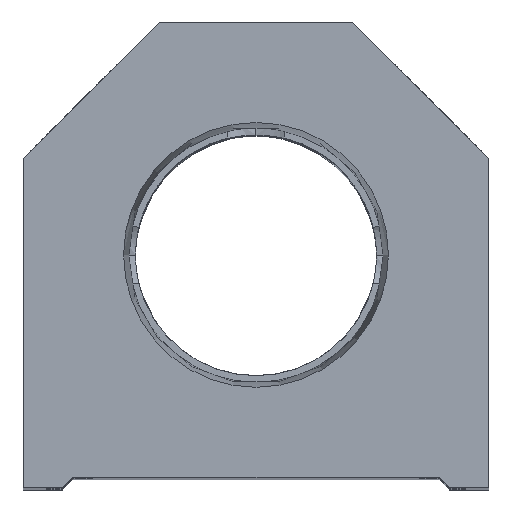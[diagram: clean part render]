
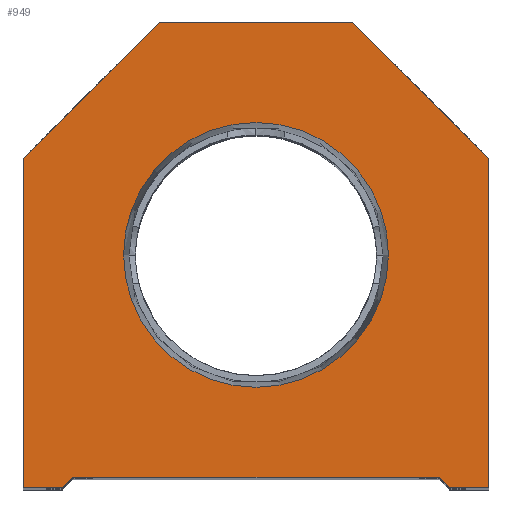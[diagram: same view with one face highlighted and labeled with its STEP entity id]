
A CAD part, top view. The second image highlights one B-rep face of the part: STEP entity #949.
In plain terms, the highlighted planar face has unit normal (0, 0, 1).
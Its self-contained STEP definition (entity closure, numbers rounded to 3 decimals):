
#13 = VECTOR ( 'NONE', #12103, 1000. ) ;
#161 = DIRECTION ( 'NONE',  ( 1., 0., 0. ) ) ;
#387 = AXIS2_PLACEMENT_3D ( 'NONE', #9277, #13932, #3485 ) ;
#753 = DIRECTION ( 'NONE',  ( 0., 1., 0. ) ) ;
#894 = ORIENTED_EDGE ( 'NONE', *, *, #5318, .T. ) ;
#949 = ADVANCED_FACE ( 'NONE', ( #15083, #13006 ), #4621, .T. ) ;
#980 = AXIS2_PLACEMENT_3D ( 'NONE', #1504, #1421, #13016 ) ;
#1000 = VERTEX_POINT ( 'NONE', #3869 ) ;
#1147 = CARTESIAN_POINT ( 'NONE',  ( -9.25, 44.5, 0. ) ) ;
#1270 = CARTESIAN_POINT ( 'NONE',  ( -22.25, 31.5, 0. ) ) ;
#1297 = CARTESIAN_POINT ( 'NONE',  ( 9.25, 44.5, 0. ) ) ;
#1302 = CARTESIAN_POINT ( 'NONE',  ( 18.5, 0., 0. ) ) ;
#1421 = DIRECTION ( 'NONE',  ( 0., 0., 1. ) ) ;
#1504 = CARTESIAN_POINT ( 'NONE',  ( 0., 22.25, 0. ) ) ;
#1515 = DIRECTION ( 'NONE',  ( -0.707, -0.707, 0. ) ) ;
#1589 = CARTESIAN_POINT ( 'NONE',  ( -18.5, 0., 0. ) ) ;
#2019 = CARTESIAN_POINT ( 'NONE',  ( -22.25, 0., 0. ) ) ;
#2480 = EDGE_CURVE ( 'NONE', #1000, #12140, #13331, .T. ) ;
#2888 = VECTOR ( 'NONE', #161, 1000. ) ;
#3119 = VERTEX_POINT ( 'NONE', #7812 ) ;
#3167 = VECTOR ( 'NONE', #13533, 1000. ) ;
#3279 = EDGE_CURVE ( 'NONE', #3119, #12785, #8691, .T. ) ;
#3485 = DIRECTION ( 'NONE',  ( 1., 0., 0. ) ) ;
#3627 = LINE ( 'NONE', #9115, #11297 ) ;
#3674 = ORIENTED_EDGE ( 'NONE', *, *, #11482, .T. ) ;
#3856 = ORIENTED_EDGE ( 'NONE', *, *, #7882, .T. ) ;
#3869 = CARTESIAN_POINT ( 'NONE',  ( 22.25, 0., 0. ) ) ;
#4248 = VERTEX_POINT ( 'NONE', #13146 ) ;
#4589 = VECTOR ( 'NONE', #7118, 1000. ) ;
#4621 = PLANE ( 'NONE',  #387 ) ;
#4666 = ORIENTED_EDGE ( 'NONE', *, *, #2480, .T. ) ;
#5008 = LINE ( 'NONE', #8670, #13 ) ;
#5318 = EDGE_CURVE ( 'NONE', #8230, #14055, #6800, .T. ) ;
#5423 = EDGE_CURVE ( 'NONE', #14055, #4248, #9453, .T. ) ;
#5493 = CARTESIAN_POINT ( 'NONE',  ( 22.25, 31.5, 0. ) ) ;
#5605 = VECTOR ( 'NONE', #1515, 1000. ) ;
#5684 = DIRECTION ( 'NONE',  ( 1., 0., 0. ) ) ;
#5688 = ORIENTED_EDGE ( 'NONE', *, *, #5423, .T. ) ;
#5985 = VECTOR ( 'NONE', #753, 1000. ) ;
#6018 = ORIENTED_EDGE ( 'NONE', *, *, #13573, .F. ) ;
#6416 = DIRECTION ( 'NONE',  ( 0., -1., 0. ) ) ;
#6633 = DIRECTION ( 'NONE',  ( 1., 0., 0. ) ) ;
#6800 = LINE ( 'NONE', #7862, #7257 ) ;
#6817 = VERTEX_POINT ( 'NONE', #13228 ) ;
#7056 = EDGE_CURVE ( 'NONE', #6817, #7082, #14202, .T. ) ;
#7082 = VERTEX_POINT ( 'NONE', #1147 ) ;
#7118 = DIRECTION ( 'NONE',  ( 0.707, -0.707, 0. ) ) ;
#7257 = VECTOR ( 'NONE', #12518, 1000. ) ;
#7390 = ORIENTED_EDGE ( 'NONE', *, *, #9376, .T. ) ;
#7751 = CARTESIAN_POINT ( 'NONE',  ( 22.25, 0., 0. ) ) ;
#7812 = CARTESIAN_POINT ( 'NONE',  ( 12.647, 22.25, 0. ) ) ;
#7825 = ORIENTED_EDGE ( 'NONE', *, *, #14028, .T. ) ;
#7862 = CARTESIAN_POINT ( 'NONE',  ( -9.25, 9.25, 0. ) ) ;
#7882 = EDGE_CURVE ( 'NONE', #13792, #9902, #13436, .T. ) ;
#8171 = ORIENTED_EDGE ( 'NONE', *, *, #10359, .T. ) ;
#8230 = VERTEX_POINT ( 'NONE', #1589 ) ;
#8296 = LINE ( 'NONE', #15101, #5605 ) ;
#8529 = CIRCLE ( 'NONE', #980, 12.647 ) ;
#8670 = CARTESIAN_POINT ( 'NONE',  ( 17.5, 0., 0. ) ) ;
#8691 = CIRCLE ( 'NONE', #15017, 12.647 ) ;
#8858 = ORIENTED_EDGE ( 'NONE', *, *, #12795, .T. ) ;
#9115 = CARTESIAN_POINT ( 'NONE',  ( -17.5, 0., 0. ) ) ;
#9277 = CARTESIAN_POINT ( 'NONE',  ( 0., 0., 0. ) ) ;
#9376 = EDGE_CURVE ( 'NONE', #4248, #14511, #10542, .T. ) ;
#9453 = LINE ( 'NONE', #10596, #2888 ) ;
#9902 = VERTEX_POINT ( 'NONE', #2019 ) ;
#9944 = CARTESIAN_POINT ( 'NONE',  ( -12.647, 22.25, 0. ) ) ;
#10092 = LINE ( 'NONE', #11238, #3167 ) ;
#10359 = EDGE_CURVE ( 'NONE', #7082, #13792, #8296, .T. ) ;
#10542 = LINE ( 'NONE', #10695, #4589 ) ;
#10596 = CARTESIAN_POINT ( 'NONE',  ( -17.5, 1., 0. ) ) ;
#10608 = CARTESIAN_POINT ( 'NONE',  ( 0., 22.25, 0. ) ) ;
#10695 = CARTESIAN_POINT ( 'NONE',  ( 9.25, 9.25, 0. ) ) ;
#11238 = CARTESIAN_POINT ( 'NONE',  ( 22.25, 31.5, 0. ) ) ;
#11297 = VECTOR ( 'NONE', #5684, 1000. ) ;
#11482 = EDGE_CURVE ( 'NONE', #9902, #8230, #3627, .T. ) ;
#11980 = ORIENTED_EDGE ( 'NONE', *, *, #3279, .F. ) ;
#12103 = DIRECTION ( 'NONE',  ( 1., 0., 0. ) ) ;
#12140 = VERTEX_POINT ( 'NONE', #5493 ) ;
#12416 = VECTOR ( 'NONE', #6416, 1000. ) ;
#12518 = DIRECTION ( 'NONE',  ( 0.707, 0.707, 0. ) ) ;
#12739 = DIRECTION ( 'NONE',  ( -1., 0., 0. ) ) ;
#12785 = VERTEX_POINT ( 'NONE', #9944 ) ;
#12795 = EDGE_CURVE ( 'NONE', #12140, #6817, #10092, .T. ) ;
#13006 = FACE_OUTER_BOUND ( 'NONE', #14363, .T. ) ;
#13016 = DIRECTION ( 'NONE',  ( 1., 0., 0. ) ) ;
#13129 = VECTOR ( 'NONE', #12739, 1000. ) ;
#13135 = CARTESIAN_POINT ( 'NONE',  ( -22.25, 0., 0. ) ) ;
#13146 = CARTESIAN_POINT ( 'NONE',  ( 17.5, 1., 0. ) ) ;
#13228 = CARTESIAN_POINT ( 'NONE',  ( 9.25, 44.5, 0. ) ) ;
#13331 = LINE ( 'NONE', #7751, #5985 ) ;
#13436 = LINE ( 'NONE', #13135, #12416 ) ;
#13533 = DIRECTION ( 'NONE',  ( -0.707, 0.707, 0. ) ) ;
#13573 = EDGE_CURVE ( 'NONE', #12785, #3119, #8529, .T. ) ;
#13653 = DIRECTION ( 'NONE',  ( 0., 0., 1. ) ) ;
#13776 = CARTESIAN_POINT ( 'NONE',  ( -17.5, 1., 0. ) ) ;
#13792 = VERTEX_POINT ( 'NONE', #1270 ) ;
#13932 = DIRECTION ( 'NONE',  ( 0., 0., 1. ) ) ;
#13970 = ORIENTED_EDGE ( 'NONE', *, *, #7056, .T. ) ;
#14028 = EDGE_CURVE ( 'NONE', #14511, #1000, #5008, .T. ) ;
#14055 = VERTEX_POINT ( 'NONE', #13776 ) ;
#14202 = LINE ( 'NONE', #1297, #13129 ) ;
#14363 = EDGE_LOOP ( 'NONE', ( #3674, #894, #5688, #7390, #7825, #4666, #8858, #13970, #8171, #3856 ) ) ;
#14511 = VERTEX_POINT ( 'NONE', #1302 ) ;
#14789 = EDGE_LOOP ( 'NONE', ( #11980, #6018 ) ) ;
#15017 = AXIS2_PLACEMENT_3D ( 'NONE', #10608, #13653, #6633 ) ;
#15083 = FACE_BOUND ( 'NONE', #14789, .T. ) ;
#15101 = CARTESIAN_POINT ( 'NONE',  ( -22.25, 31.5, 0. ) ) ;
